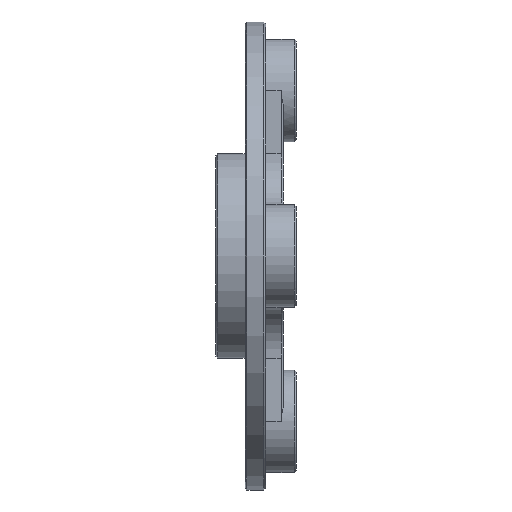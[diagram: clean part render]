
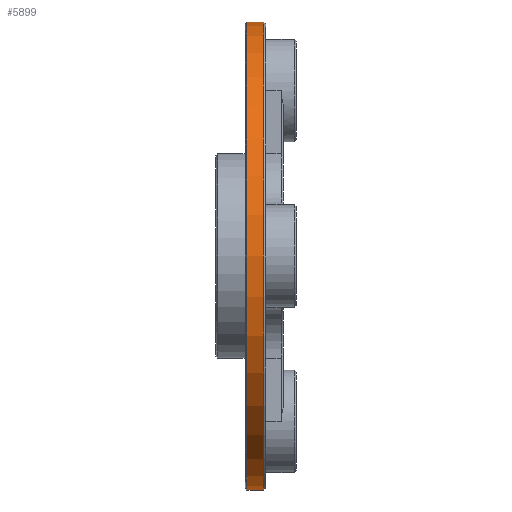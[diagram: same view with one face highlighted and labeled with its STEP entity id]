
A CAD part, left-side view. The second image highlights one B-rep face of the part: STEP entity #5899.
In plain terms, the highlighted cylindrical face has radius 16 mm (diameter 32 mm), a partial arc.
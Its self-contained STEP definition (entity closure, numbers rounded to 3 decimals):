
#258 = DIRECTION ( 'NONE',  ( 0., 0., -1. ) ) ;
#309 = DIRECTION ( 'NONE',  ( 0., 0., 1. ) ) ;
#456 = CARTESIAN_POINT ( 'NONE',  ( 0., 1.325, -16. ) ) ;
#460 = DIRECTION ( 'NONE',  ( 0., -1., 0. ) ) ;
#686 = FACE_OUTER_BOUND ( 'NONE', #2147, .T. ) ;
#1726 = VECTOR ( 'NONE', #11341, 1000. ) ;
#2121 = CARTESIAN_POINT ( 'NONE',  ( 0., 3., 0. ) ) ;
#2147 = EDGE_LOOP ( 'NONE', ( #5078, #19498, #2620, #19784 ) ) ;
#2620 = ORIENTED_EDGE ( 'NONE', *, *, #19164, .T. ) ;
#3185 = DIRECTION ( 'NONE',  ( 0., 1., 0. ) ) ;
#3318 = CARTESIAN_POINT ( 'NONE',  ( 0., 1.325, 16. ) ) ;
#3389 = CARTESIAN_POINT ( 'NONE',  ( 0., 2.475, 0. ) ) ;
#3469 = DIRECTION ( 'NONE',  ( 0., -1., 0. ) ) ;
#3524 = VERTEX_POINT ( 'NONE', #456 ) ;
#4743 = LINE ( 'NONE', #14738, #1726 ) ;
#5078 = ORIENTED_EDGE ( 'NONE', *, *, #15718, .F. ) ;
#5899 = ADVANCED_FACE ( 'NONE', ( #686 ), #17154, .T. ) ;
#6113 = DIRECTION ( 'NONE',  ( 0., 0., 1. ) ) ;
#6139 = CARTESIAN_POINT ( 'NONE',  ( 0., 3., -16. ) ) ;
#6641 = VECTOR ( 'NONE', #17270, 1000. ) ;
#6698 = AXIS2_PLACEMENT_3D ( 'NONE', #3389, #3469, #309 ) ;
#7947 = CIRCLE ( 'NONE', #6698, 16. ) ;
#9658 = CIRCLE ( 'NONE', #18365, 16. ) ;
#10892 = LINE ( 'NONE', #6139, #6641 ) ;
#11341 = DIRECTION ( 'NONE',  ( 0., -1., 0. ) ) ;
#12526 = CARTESIAN_POINT ( 'NONE',  ( 0., 2.475, 16. ) ) ;
#14117 = CARTESIAN_POINT ( 'NONE',  ( 0., 2.475, -16. ) ) ;
#14140 = VERTEX_POINT ( 'NONE', #3318 ) ;
#14738 = CARTESIAN_POINT ( 'NONE',  ( 0., 3., 16. ) ) ;
#15608 = EDGE_CURVE ( 'NONE', #20050, #18508, #7947, .T. ) ;
#15718 = EDGE_CURVE ( 'NONE', #20050, #14140, #4743, .T. ) ;
#15854 = CARTESIAN_POINT ( 'NONE',  ( 0., 1.325, 0. ) ) ;
#17154 = CYLINDRICAL_SURFACE ( 'NONE', #17336, 16. ) ;
#17270 = DIRECTION ( 'NONE',  ( 0., -1., 0. ) ) ;
#17336 = AXIS2_PLACEMENT_3D ( 'NONE', #2121, #460, #258 ) ;
#18365 = AXIS2_PLACEMENT_3D ( 'NONE', #15854, #3185, #6113 ) ;
#18508 = VERTEX_POINT ( 'NONE', #14117 ) ;
#19164 = EDGE_CURVE ( 'NONE', #18508, #3524, #10892, .T. ) ;
#19498 = ORIENTED_EDGE ( 'NONE', *, *, #15608, .T. ) ;
#19784 = ORIENTED_EDGE ( 'NONE', *, *, #20039, .T. ) ;
#20039 = EDGE_CURVE ( 'NONE', #3524, #14140, #9658, .T. ) ;
#20050 = VERTEX_POINT ( 'NONE', #12526 ) ;
